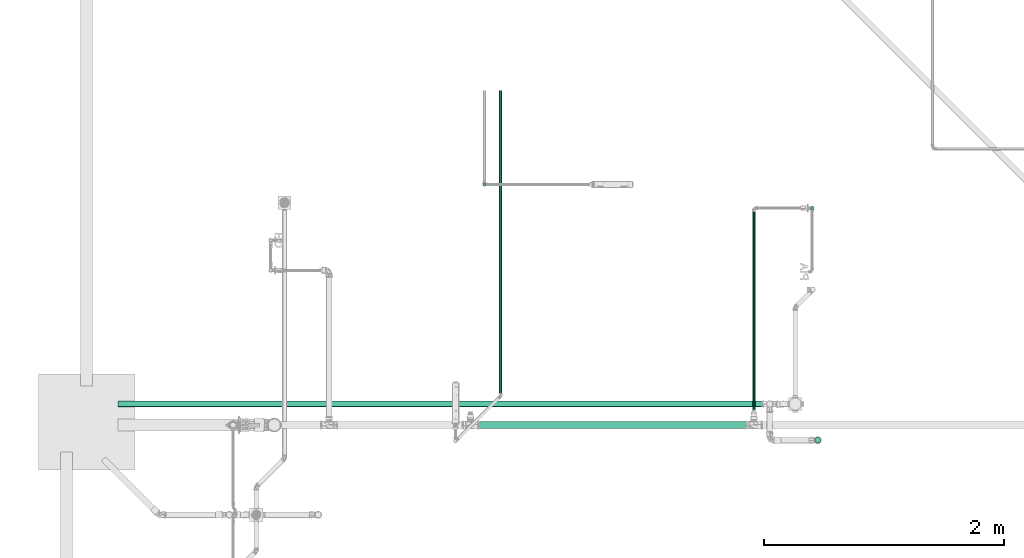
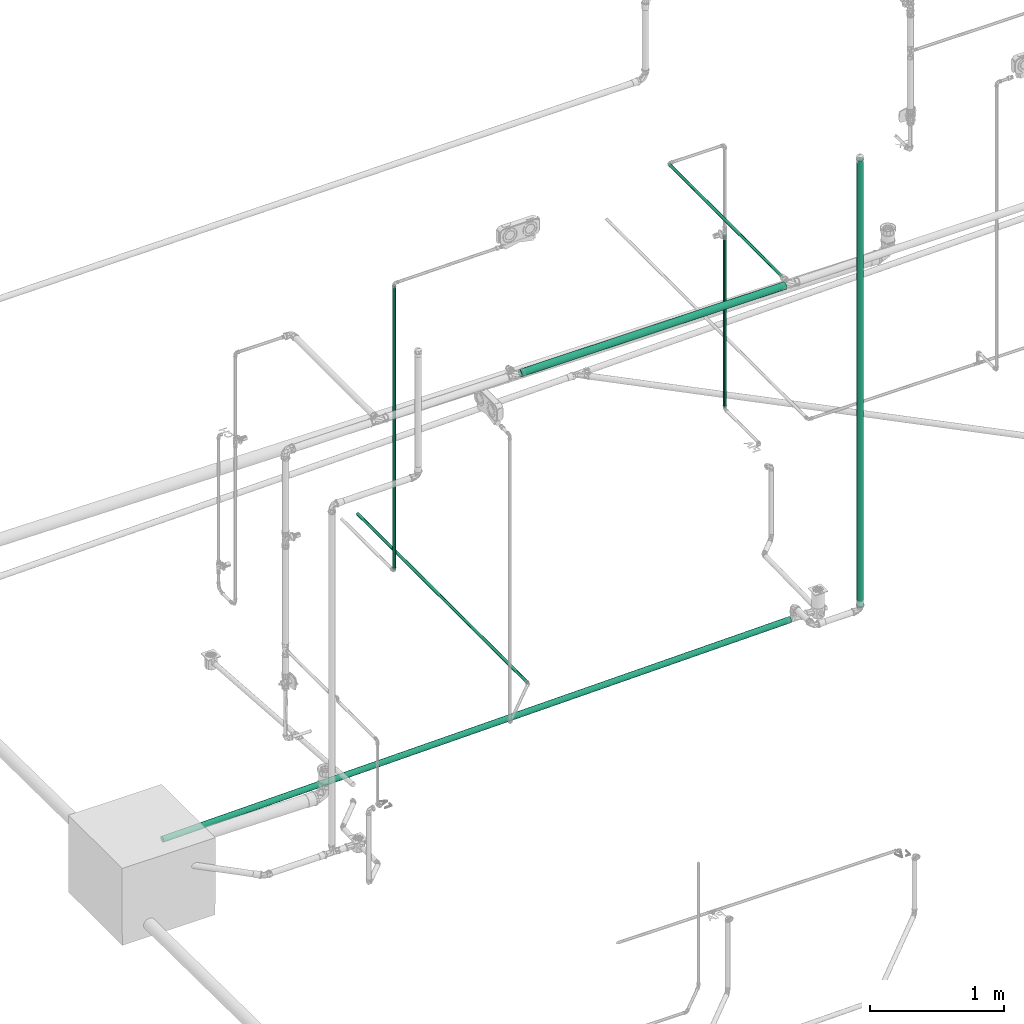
# One storey, part 8 of 589: 7 flow segments.
"""IFC2X3 building model written with IfcOpenShell, lengths in millimetres."""

from ifc_helpers import new_model, entity, si_unit, converted_unit, derived_unit, direction, frame, frame_2d, origin, origin_2d_with_axis, place, context, subcontext, project, spatial, circle, extrude, type_object, element, save


model = new_model("IFC2X3")

# Units and contexts
model_context = context("Model", 3, precision=0.01, world=origin(), true_north=direction((6.123031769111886e-17, 1.0)))
body_context = subcontext(model_context, "Body", "Model", "MODEL_VIEW")
ifc_project = project(units=[si_unit("LENGTHUNIT", "METRE", prefix="MILLI"), si_unit("AREAUNIT", "SQUARE_METRE"), si_unit("VOLUMEUNIT", "CUBIC_METRE"), converted_unit("PLANEANGLEUNIT", "DEGREE", entity("IfcRatioMeasure", 0.017453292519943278), si_unit("PLANEANGLEUNIT", "RADIAN"), dimensions=[0, 0, 0, 0, 0, 0, 0]), si_unit("MASSUNIT", "GRAM", prefix="KILO"), derived_unit("MASSDENSITYUNIT", [(si_unit("MASSUNIT", "GRAM", prefix="KILO"), 1), (si_unit("LENGTHUNIT", "METRE"), -3)]), derived_unit("IONCONCENTRATIONUNIT", [(si_unit("MASSUNIT", "GRAM", prefix="KILO"), 1), (si_unit("LENGTHUNIT", "METRE"), -3)]), derived_unit("MOMENTOFINERTIAUNIT", [(si_unit("LENGTHUNIT", "METRE"), 4)]), si_unit("TIMEUNIT", "SECOND"), si_unit("FREQUENCYUNIT", "HERTZ"), si_unit("THERMODYNAMICTEMPERATUREUNIT", "DEGREE_CELSIUS"), derived_unit("THERMALTRANSMITTANCEUNIT", [(si_unit("MASSUNIT", "GRAM", prefix="KILO"), 1), (si_unit("THERMODYNAMICTEMPERATUREUNIT", "KELVIN"), -1), (si_unit("TIMEUNIT", "SECOND"), -3)]), derived_unit("THERMALCONDUCTANCEUNIT", [(si_unit("MASSUNIT", "GRAM", prefix="KILO"), 1), (si_unit("THERMODYNAMICTEMPERATUREUNIT", "KELVIN"), -1), (si_unit("TIMEUNIT", "SECOND"), -3), (si_unit("LENGTHUNIT", "METRE"), 1)]), derived_unit("VOLUMETRICFLOWRATEUNIT", [(si_unit("LENGTHUNIT", "METRE"), 3), (si_unit("TIMEUNIT", "SECOND"), -1)]), derived_unit("MASSFLOWRATEUNIT", [(si_unit("MASSUNIT", "GRAM", prefix="KILO"), 1), (si_unit("TIMEUNIT", "SECOND"), -1)]), derived_unit("ROTATIONALFREQUENCYUNIT", [(si_unit("TIMEUNIT", "SECOND"), -1)]), si_unit("ELECTRICCURRENTUNIT", "AMPERE"), si_unit("ELECTRICVOLTAGEUNIT", "VOLT"), si_unit("POWERUNIT", "WATT"), si_unit("FORCEUNIT", "NEWTON", prefix="KILO"), si_unit("ILLUMINANCEUNIT", "LUX"), si_unit("LUMINOUSFLUXUNIT", "LUMEN"), si_unit("LUMINOUSINTENSITYUNIT", "CANDELA"), derived_unit("USERDEFINED", [(si_unit("MASSUNIT", "GRAM", prefix="KILO"), -1), (si_unit("LENGTHUNIT", "METRE"), -2), (si_unit("TIMEUNIT", "SECOND"), 3), (si_unit("LUMINOUSFLUXUNIT", "LUMEN"), 1)]), derived_unit("USERDEFINED", [(si_unit("MASSUNIT", "GRAM", prefix="KILO"), 1), (si_unit("TIMEUNIT", "SECOND"), -3), (si_unit("LENGTHUNIT", "METRE"), 3), (si_unit("ELECTRICCURRENTUNIT", "AMPERE"), -2)]), derived_unit("SOUNDPOWERUNIT", [(si_unit("MASSUNIT", "GRAM", prefix="KILO"), 1), (si_unit("TIMEUNIT", "SECOND"), -3), (si_unit("LENGTHUNIT", "METRE"), 2)]), derived_unit("SOUNDPRESSUREUNIT", [(si_unit("MASSUNIT", "GRAM", prefix="KILO"), 1), (si_unit("LENGTHUNIT", "METRE"), -1), (si_unit("TIMEUNIT", "SECOND"), -2)]), derived_unit("LINEARVELOCITYUNIT", [(si_unit("LENGTHUNIT", "METRE"), 1), (si_unit("TIMEUNIT", "SECOND"), -1)]), si_unit("PRESSUREUNIT", "PASCAL"), derived_unit("USERDEFINED", [(si_unit("MASSUNIT", "GRAM", prefix="KILO"), 1), (si_unit("LENGTHUNIT", "METRE"), -2), (si_unit("TIMEUNIT", "SECOND"), -2)]), derived_unit("LINEARFORCEUNIT", [(si_unit("MASSUNIT", "GRAM", prefix="KILO"), 1), (si_unit("TIMEUNIT", "SECOND"), -2)]), derived_unit("PLANARFORCEUNIT", [(si_unit("MASSUNIT", "GRAM", prefix="KILO"), 1), (si_unit("LENGTHUNIT", "METRE"), -1), (si_unit("TIMEUNIT", "SECOND"), -2)]), derived_unit("SPECIFICHEATCAPACITYUNIT", [(si_unit("THERMODYNAMICTEMPERATUREUNIT", "KELVIN"), -1), (si_unit("LENGTHUNIT", "METRE"), 2), (si_unit("TIMEUNIT", "SECOND"), -2)]), derived_unit("HEATINGVALUEUNIT", [(si_unit("LENGTHUNIT", "METRE"), 2), (si_unit("TIMEUNIT", "SECOND"), -2)]), derived_unit("VAPORPERMEABILITYUNIT", [(si_unit("LENGTHUNIT", "METRE"), -1), (si_unit("TIMEUNIT", "SECOND"), 1)]), derived_unit("DYNAMICVISCOSITYUNIT", [(si_unit("MASSUNIT", "GRAM", prefix="KILO"), 1), (si_unit("TIMEUNIT", "SECOND"), -1), (si_unit("LENGTHUNIT", "METRE"), -1)]), derived_unit("THERMALEXPANSIONCOEFFICIENTUNIT", [(si_unit("THERMODYNAMICTEMPERATUREUNIT", "KELVIN"), -1)]), derived_unit("MODULUSOFELASTICITYUNIT", [(si_unit("MASSUNIT", "GRAM", prefix="KILO"), 1), (si_unit("LENGTHUNIT", "METRE"), -1), (si_unit("TIMEUNIT", "SECOND"), -2)]), derived_unit("ISOTHERMALMOISTURECAPACITYUNIT", [(si_unit("LENGTHUNIT", "METRE"), 3), (si_unit("MASSUNIT", "GRAM", prefix="KILO"), -1)]), derived_unit("MOISTUREDIFFUSIVITYUNIT", [(si_unit("TIMEUNIT", "SECOND"), -1), (si_unit("LENGTHUNIT", "METRE"), 2)])], contexts=[model_context])

# Site, building, storey
site_placement = place(None, origin())
site = spatial("IfcSite", under=ifc_project, at=site_placement, Name="Default", CompositionType="ELEMENT")
building_placement = place(site_placement, origin())
building = spatial("IfcBuilding", under=site, at=building_placement, CompositionType="ELEMENT")
storey_placement = place(building_placement, frame((0.0, 0.0, 100.0)))
storey = spatial("IfcBuildingStorey", under=building, at=storey_placement, Name="TÉRREO", CompositionType="ELEMENT", Elevation=100.0)

# Flow segments
pipe_segment_type_1 = type_object("IfcPipeSegmentType", Name="Tipos de tubos:PVC Esgoto Série Normal", PredefinedType="NOTDEFINED")
flow_segment_1_placement = place(storey_placement, origin())
element("IfcFlowSegment", 1, at=flow_segment_1_placement, inside=storey, type_object=pipe_segment_type_1, Name="Tipos de tubos:PVC Esgoto Série Normal", ObjectType="Tipos de tubos:PVC Esgoto Série Normal", context=body_context, shape_type="SweptSolid", body=[
    extrude(circle(Radius=25.0, at=frame_2d((0.0, -3.383283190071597e-14), x_axis=(1.0, 0.0))), frame((-8520.920366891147, -354.2352269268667, -298.9033946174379), z_axis=(0.999800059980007, 0.0, 0.019996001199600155), x_axis=(0.0, 1.0, 0.0)), (0.0, 0.0, 1.0), 5394.736515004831),
])
flow_segment_2_placement = place(storey_placement, origin())
element("IfcFlowSegment", 2, at=flow_segment_2_placement, inside=storey, type_object=pipe_segment_type_1, Name="Tipos de tubos:PVC Esgoto Série Normal", ObjectType="Tipos de tubos:PVC Esgoto Série Normal", context=body_context, shape_type="SweptSolid", body=[
    extrude(circle(Radius=25.0, at=origin_2d_with_axis()), frame((-2699.894944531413, -655.7850719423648, -37.043201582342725)), (0.0, 0.0, 1.0), 4062.543201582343),
])
pipe_segment_type_2 = type_object("IfcPipeSegmentType", Name="Tipos de tubos:PVC Marrom Soldável", PredefinedType="NOTDEFINED")
flow_segment_3_placement = place(storey_placement, origin())
element("IfcFlowSegment", 3, at=flow_segment_3_placement, inside=storey, type_object=pipe_segment_type_2, Name="Tipos de tubos:PVC Marrom Soldável", ObjectType="Tipos de tubos:PVC Marrom Soldável", context=body_context, shape_type="SweptSolid", body=[
    extrude(circle(Radius=12.5, at=frame_2d((0.0, 2.707167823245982e-13), x_axis=(1.0, 0.0))), frame((-2746.898265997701, 1275.9612263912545, 615.4000000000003), z_axis=(0.0, 0.0, 1.0), x_axis=(-1.0, 0.0, 0.0)), (0.0, 0.0, 1.0), 1564.5999999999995),
])
flow_segment_4_placement = place(storey_placement, origin())
element("IfcFlowSegment", 4, at=flow_segment_4_placement, inside=storey, type_object=pipe_segment_type_2, Name="Tipos de tubos:PVC Marrom Soldável", ObjectType="Tipos de tubos:PVC Marrom Soldável", context=body_context, shape_type="SweptSolid", body=[
    extrude(circle(Radius=30.0, at=frame_2d((6.767919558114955e-14, 0.0), x_axis=(1.0, 0.0))), frame((-5548.323913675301, -528.924137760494, 3000.0), z_axis=(1.0, 0.0, 0.0), x_axis=(0.0, -1.0, 0.0)), (0.0, 0.0, 1.0), 2275.664051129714),
])
flow_segment_5_placement = place(storey_placement, origin())
element("IfcFlowSegment", 5, at=flow_segment_5_placement, inside=storey, type_object=pipe_segment_type_2, Name="Tipos de tubos:PVC Marrom Soldável", ObjectType="Tipos de tubos:PVC Marrom Soldável", context=body_context, shape_type="SweptSolid", body=[
    extrude(circle(Radius=12.5, at=origin_2d_with_axis()), frame((-3231.759862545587, -414.1241377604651, 3000.0), z_axis=(0.0, 1.0, 0.0), x_axis=(1.0, 0.0, 0.0)), (0.0, 0.0, 1.0), 1674.685364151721),
])
flow_segment_6_placement = place(storey_placement, origin())
element("IfcFlowSegment", 6, at=flow_segment_6_placement, inside=storey, type_object=pipe_segment_type_2, Name="Tipos de tubos:PVC Marrom Soldável", ObjectType="Tipos de tubos:PVC Marrom Soldável", context=body_context, shape_type="SweptSolid", body=[
    extrude(circle(Radius=12.5, at=origin_2d_with_axis()), frame((-5474.131383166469, 1472.3181323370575, -21.952537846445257)), (0.0, 0.0, 1.0), 2583.0894217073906),
])
flow_segment_7_placement = place(storey_placement, origin())
element("IfcFlowSegment", 7, at=flow_segment_7_placement, inside=storey, type_object=pipe_segment_type_2, Name="Tipos de tubos:PVC Marrom Soldável", ObjectType="Tipos de tubos:PVC Marrom Soldável", context=body_context, shape_type="SweptSolid", body=[
    extrude(circle(Radius=12.5, at=frame_2d((0.0, -8.459899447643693e-15), x_axis=(1.0, 0.0))), frame((-5337.23743510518, -279.04849099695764, -37.35980762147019), z_axis=(0.0, 1.0, 0.0), x_axis=(1.0, 0.0, 0.0)), (0.0, 0.0, 1.0), 2532.4796860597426),
])

save(model, "model.ifc")
